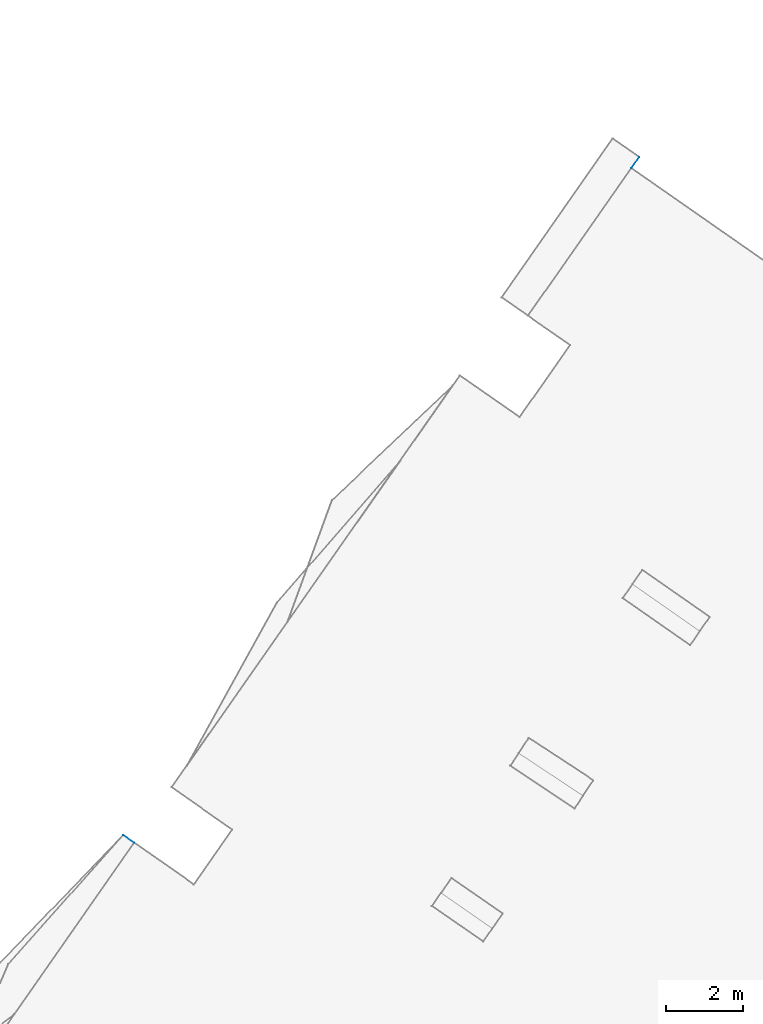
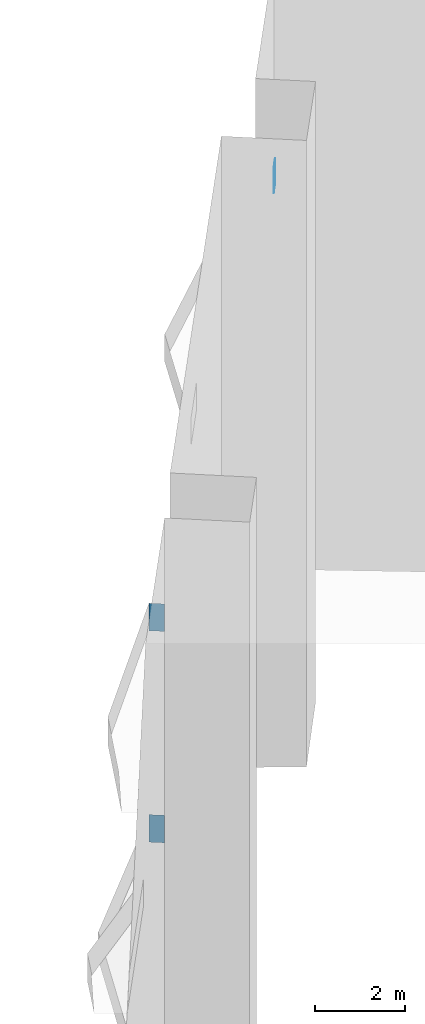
# Not in any storey, part 88 of 136: 6 walls.
"""IFC4 building model written with IfcOpenShell, lengths in metres."""

from ifc_helpers import new_model, entity, si_unit, converted_unit, frame, origin, place, context, subcontext, project, spatial, face_set, surface_model, element, save


model = new_model("IFC4")

# Units and contexts
model_context = context("Model", 3, precision=1e-05, world=origin())
body_context = subcontext(model_context, "Body", "Model", "MODEL_VIEW")
ifc_project = project(units=[converted_unit("PLANEANGLEUNIT", "DEGREE", entity("IfcRatioMeasure", 0.0174532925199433), si_unit("PLANEANGLEUNIT", "RADIAN"), dimensions=[0, 0, 0, 0, 0, 0, 0]), si_unit("AREAUNIT", "SQUARE_METRE"), si_unit("LENGTHUNIT", "METRE")], contexts=[model_context])

# Site, building
site_placement = place(None, origin())
site = spatial("IfcSite", under=ifc_project, at=site_placement, Name="_site")
building_placement = place(site_placement, origin())
building = spatial("IfcBuilding", under=site, at=building_placement, Name="_building")

# Walls
for number, where, name in (
    (1, (0.0, 0.0, 0.0), "Wall"),
    (2, (0.0, 0.0, 0.0), "Wall"),
):
    element("IfcWall", number, at=place(building_placement, frame(where)), inside=building, Name=name, PredefinedType="NOTDEFINED", context=body_context, shape_type="SurfaceModel", body=[
        surface_model("IfcFaceBasedSurfaceModel", [(20.63, 55.23, 47.51), (20.43, 54.94, 47.51), (20.43, 54.94, 48.26), (20.63, 55.23, 48.26)], [face_set([[[0, 1, 2, 3]]])]),
    ])
for number, where, name in (
    (3, (0.0, 0.0, 0.0), "Wall"),
    (4, (0.0, 0.0, 0.0), "Wall"),
):
    element("IfcWall", number, at=place(building_placement, frame(where)), inside=building, Name=name, PredefinedType="NOTDEFINED", context=body_context, shape_type="SurfaceModel", body=[
        surface_model("IfcFaceBasedSurfaceModel", [(7.15, 37.51, 45.09), (7.44, 37.311, 45.09), (7.44, 37.311, 45.84), (7.15, 37.51, 45.84)], [face_set([[[0, 1, 2, 3]]])]),
    ])
for number, where, name in (
    (5, (0.0, 0.0, 0.0), "Wall"),
    (6, (0.0, 0.0, 0.0), "Wall"),
):
    element("IfcWall", number, at=place(building_placement, frame(where)), inside=building, Name=name, PredefinedType="NOTDEFINED", context=body_context, shape_type="SurfaceModel", body=[
        surface_model("IfcFaceBasedSurfaceModel", [(7.15, 37.51, 50.84), (7.44, 37.311, 50.84), (7.44, 37.311, 51.59), (7.15, 37.51, 51.59)], [face_set([[[0, 1, 2, 3]]])]),
    ])

save(model, "model.ifc")
